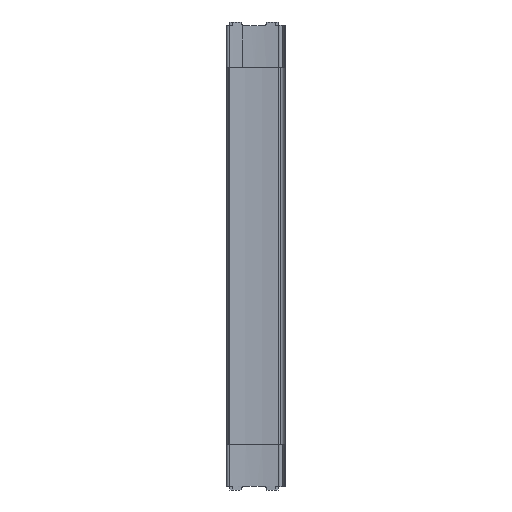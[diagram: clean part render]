
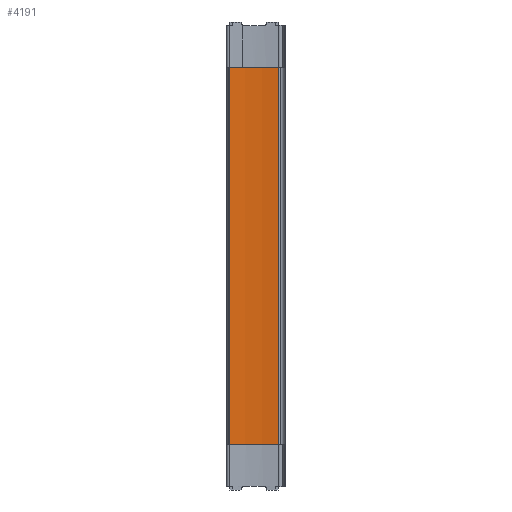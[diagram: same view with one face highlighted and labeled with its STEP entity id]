
A CAD part, left-side view. The second image highlights one B-rep face of the part: STEP entity #4191.
In plain terms, the highlighted cylindrical face has radius 250 mm (diameter 500 mm), a partial arc.
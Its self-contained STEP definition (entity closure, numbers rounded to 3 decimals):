
#189 = CIRCLE ( 'NONE', #1344, 250. ) ;
#258 = VECTOR ( 'NONE', #3863, 1000. ) ;
#265 = LINE ( 'NONE', #3862, #258 ) ;
#316 = CIRCLE ( 'NONE', #1310, 250. ) ;
#402 = ORIENTED_EDGE ( 'NONE', *, *, #981, .T. ) ;
#403 = ORIENTED_EDGE ( 'NONE', *, *, #1076, .F. ) ;
#404 = ORIENTED_EDGE ( 'NONE', *, *, #1117, .F. ) ;
#405 = ORIENTED_EDGE ( 'NONE', *, *, #1158, .F. ) ;
#851 = CARTESIAN_POINT ( 'NONE',  ( -5.747, 63.571, 212.5 ) ) ;
#852 = CARTESIAN_POINT ( 'NONE',  ( -5.747, 63.571, -212.5 ) ) ;
#981 = EDGE_CURVE ( 'NONE', #3042, #3043, #2097, .T. ) ;
#1076 = EDGE_CURVE ( 'NONE', #3042, #2962, #316, .T. ) ;
#1117 = EDGE_CURVE ( 'NONE', #2962, #2945, #265, .T. ) ;
#1158 = EDGE_CURVE ( 'NONE', #2945, #3043, #189, .T. ) ;
#1310 = AXIS2_PLACEMENT_3D ( 'NONE', #3740, #3746, #3747 ) ;
#1344 = AXIS2_PLACEMENT_3D ( 'NONE', #3958, #3960, #3961 ) ;
#1467 = AXIS2_PLACEMENT_3D ( 'NONE', #1897, #1896, #1895 ) ;
#1895 = DIRECTION ( 'NONE',  ( -1., 0., 0. ) ) ;
#1896 = DIRECTION ( 'NONE',  ( 0., 0., -1. ) ) ;
#1897 = CARTESIAN_POINT ( 'NONE',  ( -255.319, 48.963, 218.5 ) ) ;
#2096 = VECTOR ( 'NONE', #3485, 1000. ) ;
#2097 = LINE ( 'NONE', #3484, #2096 ) ;
#2416 = EDGE_LOOP ( 'NONE', ( #405, #404, #403, #402 ) ) ;
#2802 = CARTESIAN_POINT ( 'NONE',  ( -8.643, 8.331, 212.5 ) ) ;
#2834 = CARTESIAN_POINT ( 'NONE',  ( -8.643, 8.331, -212.5 ) ) ;
#2945 = VERTEX_POINT ( 'NONE', #2834 ) ;
#2962 = VERTEX_POINT ( 'NONE', #2802 ) ;
#3042 = VERTEX_POINT ( 'NONE', #851 ) ;
#3043 = VERTEX_POINT ( 'NONE', #852 ) ;
#3484 = CARTESIAN_POINT ( 'NONE',  ( -5.747, 63.571, 218.5 ) ) ;
#3485 = DIRECTION ( 'NONE',  ( 0., 0., -1. ) ) ;
#3740 = CARTESIAN_POINT ( 'NONE',  ( -255.319, 48.963, 212.5 ) ) ;
#3746 = DIRECTION ( 'NONE',  ( 0., 0., -1. ) ) ;
#3747 = DIRECTION ( 'NONE',  ( 1., 0., 0. ) ) ;
#3862 = CARTESIAN_POINT ( 'NONE',  ( -8.643, 8.331, 218.5 ) ) ;
#3863 = DIRECTION ( 'NONE',  ( 0., 0., -1. ) ) ;
#3958 = CARTESIAN_POINT ( 'NONE',  ( -255.319, 48.963, -212.5 ) ) ;
#3960 = DIRECTION ( 'NONE',  ( 0., 0., 1. ) ) ;
#3961 = DIRECTION ( 'NONE',  ( -1., 0., 0. ) ) ;
#4191 = ADVANCED_FACE ( 'NONE', ( #4333 ), #4336, .F. ) ;
#4333 = FACE_OUTER_BOUND ( 'NONE', #2416, .T. ) ;
#4336 = CYLINDRICAL_SURFACE ( 'NONE', #1467, 250. ) ;
